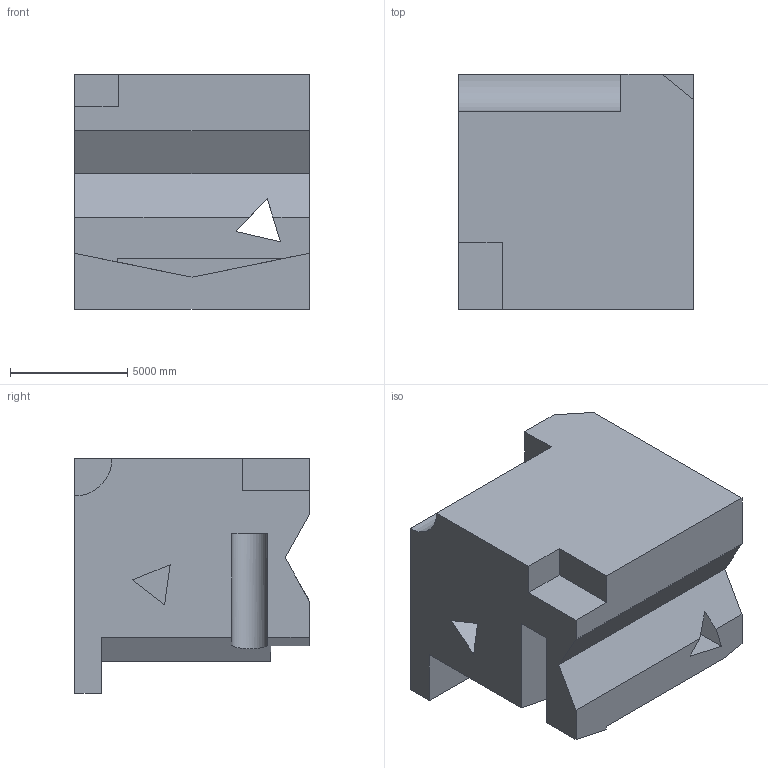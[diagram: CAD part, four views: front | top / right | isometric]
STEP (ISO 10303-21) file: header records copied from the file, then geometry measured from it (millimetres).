
FILE_DESCRIPTION (( 'STEP AP203' ), '1' );
FILE_NAME ('1831.STEP', '2022-08-19T13:19:20', ( 'user' ), ( '' ), 'SwSTEP 2.0', 'SolidWorks 2021', '' );
FILE_SCHEMA (( 'CONFIG_CONTROL_DESIGN' ));
Length unit declared in the file: centimetre
Products named in the file (1): 1831
Bounding box: 10000 x 10000 x 10000 mm (x, y, z)
Volume: 748819652620.4 mm3; surface area: 649041965.6 mm2
Topology: 1 solids, 1 shells, 33 faces, 93 edges, 62 vertices
Faces by surface type: plane 31, cylinder 2
Entity records: 1131 total; most frequent: CARTESIAN_POINT 192, ORIENTED_EDGE 186, DIRECTION 163, EDGE_CURVE 93, LINE 89, VECTOR 89, VERTEX_POINT 62, AXIS2_PLACEMENT_3D 37
